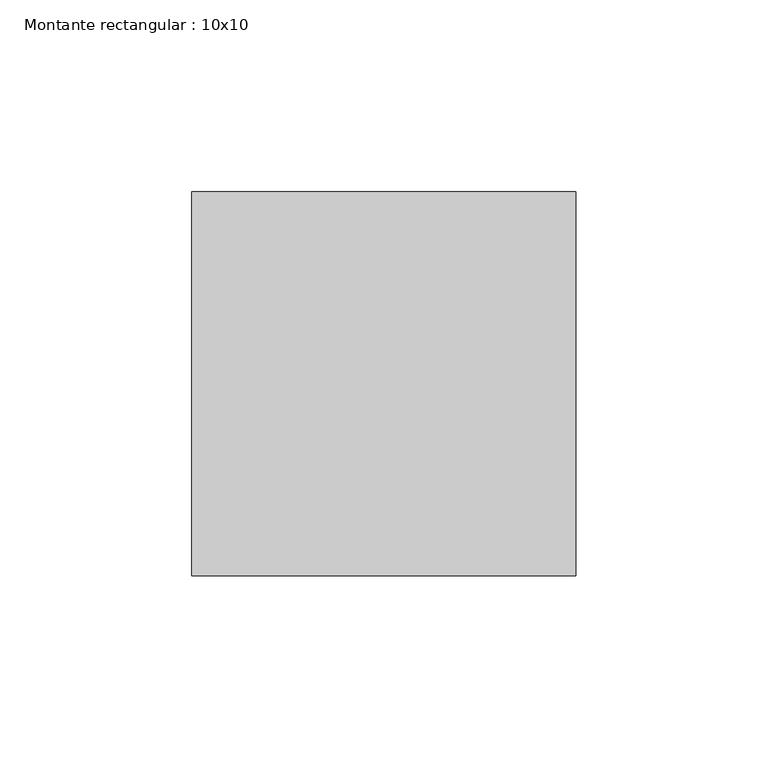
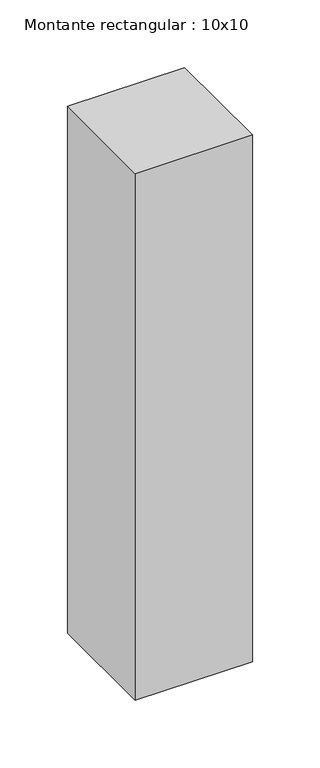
"""IFC4 building model written with IfcOpenShell, lengths in millimetres: member geometry, Montante rectangular : 10x10."""

from ifc_helpers import new_model, si_unit, frame, origin, place, context, project, spatial, polyline, outline, extrude, source, transform, mapped, element, save


def montante_rectangular_10x10_d4860ac2(model_context):
    return source(origin(), model_context, "Body", "SweptSolid", [
        extrude(outline(polyline([(100.0, 50.0), (100.0, -50.0), (0.0, -50.0), (0.0, 50.0), (100.0, 50.0)])), frame((0.0, 0.0, -475.0), z_axis=(0.0, 0.0, 1.0), x_axis=(1.0, 0.0, 0.0)), (0.0, 0.0, 1.0), 475.0),
    ])


if __name__ == "__main__":
    model = new_model("IFC4")
    model_context = context("Model", 3, world=origin())
    ifc_project = project(units=[si_unit("LENGTHUNIT", "METRE", prefix="MILLI")], contexts=[model_context])
    site = spatial("IfcSite", under=ifc_project)
    building = spatial("IfcBuilding", under=site)
    placement = place(None, origin())
    montante_rectangular_10x10_shape = montante_rectangular_10x10_d4860ac2(model_context)
    element("IfcMember", 1, ObjectType="Montante rectangular : 10x10", at=placement, inside=building, context=model_context, shape_type="MappedRepresentation", body=[
        mapped(montante_rectangular_10x10_shape, transform((0.0, 0.0, 0.0), x_axis=(1.0, 0.0, 0.0), y_axis=(0.0, 1.0, 0.0), z_axis=(0.0, 0.0, 1.0))),
    ])
    save(model, "model.ifc")
